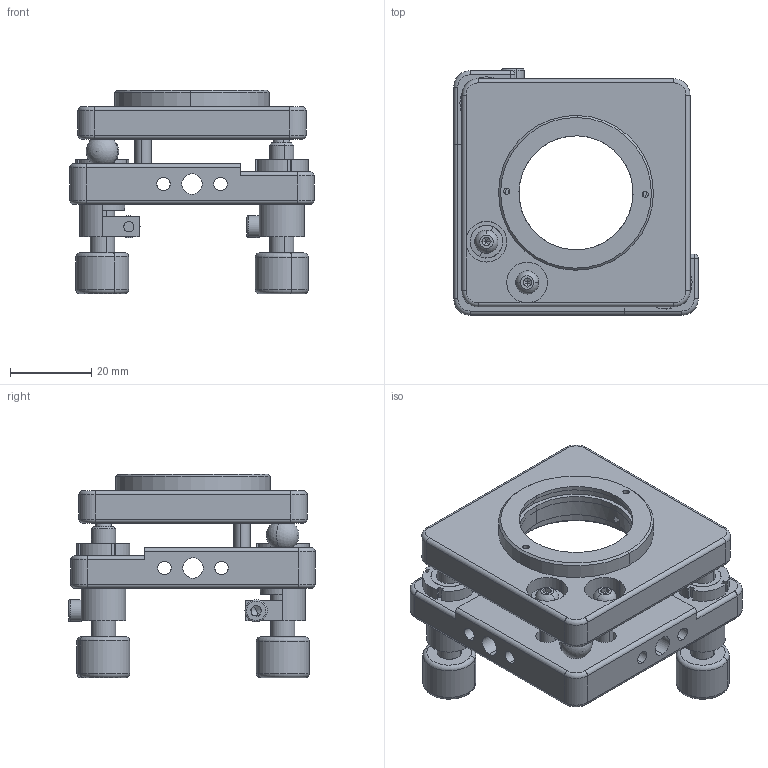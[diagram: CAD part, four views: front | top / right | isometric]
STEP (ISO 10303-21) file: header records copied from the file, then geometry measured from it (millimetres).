
FILE_DESCRIPTION (( 'STEP AP203' ), '1' );
FILE_NAME ('7MM0530謗峎覃淕噩殤.STEP', '2019-05-24T05:43:07', ( '' ), ( '' ), 'SwSTEP 2.0', 'SolidWorks 2014', '' );
FILE_SCHEMA (( 'CONFIG_CONTROL_DESIGN' ));
Length unit declared in the file: millimetre
Products named in the file (1): 7MM0530謗峎覃淕噩殤
Bounding box: 60 x 60.5 x 49.94 mm (x, y, z)
Surface area: 21378.7 mm2 (no closed solid volume)
Topology: 0 solids, 36 shells, 372 faces, 978 edges, 621 vertices
Faces by surface type: plane 169, cylinder 137, torus 26, cone 22, sphere 18
Entity records: 11759 total; most frequent: CARTESIAN_POINT 2422, DIRECTION 2099, ORIENTED_EDGE 1700, EDGE_CURVE 953, AXIS2_PLACEMENT_3D 797, VERTEX_POINT 612, LINE 505, VECTOR 505
